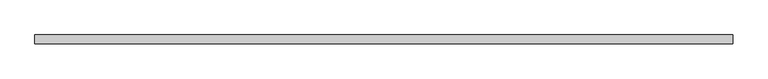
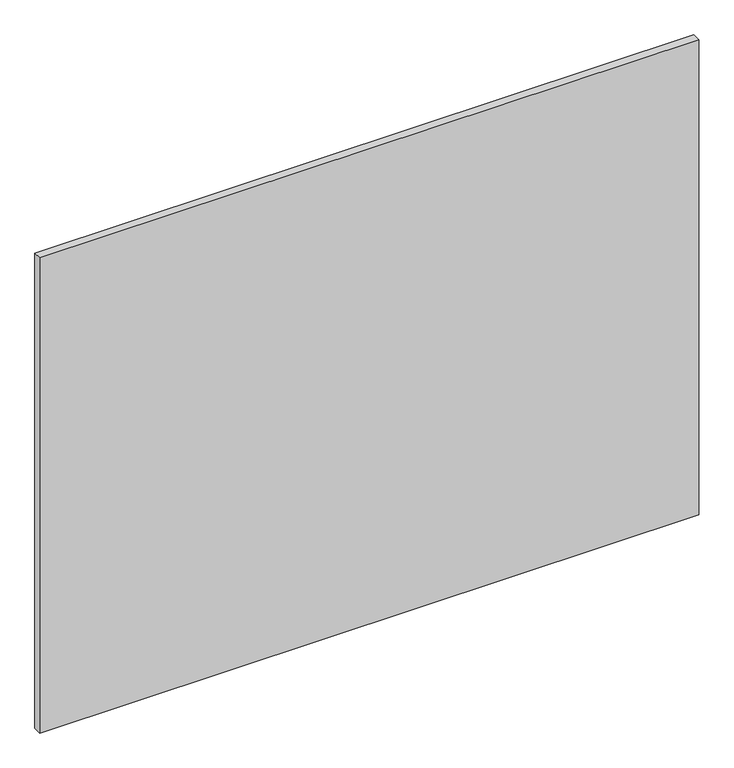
"""IFC4 building model written with IfcOpenShell, lengths in millimetres: plate geometry, 系统嵌板 : 玻璃."""

from ifc_helpers import new_model, si_unit, origin, origin_with_axes, place, context, project, spatial, polyline, outline, extrude, source, transform, mapped, element, save


def plate_fb07f383(model_context):
    return source(origin(), model_context, "Body", "SweptSolid", [
        extrude(outline(polyline([(1000.0, -12.5), (-1000.0, -12.5), (-1000.0, 12.5), (1000.0, 12.5), (1000.0, -12.5)])), origin_with_axes(), (0.0, 0.0, 1.0), 1525.0),
    ])


if __name__ == "__main__":
    model = new_model("IFC4")
    model_context = context("Model", 3, world=origin())
    ifc_project = project(units=[si_unit("LENGTHUNIT", "METRE", prefix="MILLI")], contexts=[model_context])
    site = spatial("IfcSite", under=ifc_project)
    building = spatial("IfcBuilding", under=site)
    placement = place(None, origin())
    plate_shape = plate_fb07f383(model_context)
    element("IfcPlate", 1, ObjectType="系统嵌板 : 玻璃", at=placement, inside=building, context=model_context, shape_type="MappedRepresentation", body=[
        mapped(plate_shape, transform((0.0, 0.0, 0.0), x_axis=(1.0, 0.0, 0.0), y_axis=(0.0, 1.0, 0.0), z_axis=(0.0, 0.0, 1.0))),
    ])
    save(model, "model.ifc")
